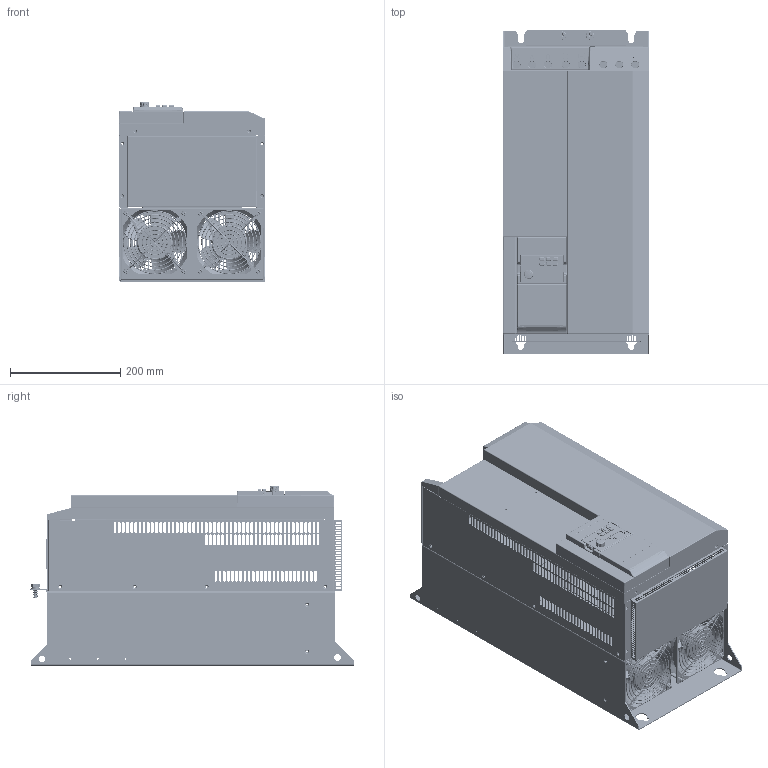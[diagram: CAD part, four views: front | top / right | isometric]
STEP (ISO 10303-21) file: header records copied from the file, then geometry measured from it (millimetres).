
FILE_DESCRIPTION((''),'2;1');
FILE_NAME('VFC5610-55K0-3P4-MNA-XX-NNNNN-N','2023-03-27T11:00:52',('ZUX1XI'),(''),'CREO PARAMETRIC BY PTC INC, 2021072','CREO PARAMETRIC BY PTC INC, 2021072','');
FILE_SCHEMA(('AUTOMOTIVE_DESIGN { 1 0 10303 214 1 1 1 1 }'));
Products named in the file (148): MANIFOLD_SOLID_BREP_4777; X610_45_FENGDAO__14_ASM; DC_CHOKE_HOLDER__2_ASM; X610_45_FENGDAO__ASM_11_ASM; ASM0087_ASM_1_ASM; ASM0088_ASM_1_ASM; ASM0089_ASM_1_ASM; ASM0086_ASM_1_ASM; DCL-0180-EIDC-1804B_ASM_1_ASM; DCL-0128_0174_-EIDC-7307__ASM_1; MANIFOLD_SOLID_BREP_37448; X610_45_ZHONGCENG__18_ASM; MANIFOLD_SOLID_BREP_57325; MANIFOLD_SOLID_BREP_57528; MANIFOLD_SOLID_BREP_57731; MANIFOLD_SOLID_BREP_57934; MANIFOLD_SOLID_BREP_58137; MANIFOLD_SOLID_BREP_58340; MANIFOLD_SOLID_BREP_58543; MANIFOLD_SOLID_BREP_58746; MANIFOLD_SOLID_BREP_58949; MANIFOLD_SOLID_BREP_59152; MANIFOLD_SOLID_BREP_59355; MANIFOLD_SOLID_BREP_59558; MANIFOLD_SOLID_BREP_59761; MANIFOLD_SOLID_BREP_59964; MANIFOLD_SOLID_BREP_60167; MANIFOLD_SOLID_BREP_60370; MANIFOLD_SOLID_BREP_60573; MANIFOLD_SOLID_BREP_60776; X610_37_FENGJIZHIJIA__1_ASM; MANIFOLD_SOLID_BREP_122133; MANIFOLD_SOLID_BREP_122296; MANIFOLD_SOLID_BREP_122459; MANIFOLD_SOLID_BREP_122622; MANIFOLD_SOLID_BREP_122785; X610_37_GND_2_ASM; AD12038-F51_1; MANIFOLD_SOLID_BREP_142995; MANIFOLD_SOLID_BREP_143802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
Assembly tree (210 placements, depth 7):
  VFC5610-55K0-3P4-MNA-XX-NNNNN-N
    00_X610_45_ASM_ASM
      00_X610_45_ASM_121_ASM
        X610_45_FENGDAO__ASM_11_ASM
          X610_45_FENGDAO__14_ASM
            MANIFOLD_SOLID_BREP_4777
          DC_CHOKE_HOLDER__2_ASM
        DCL-0128_0174_-EIDC-7307__ASM_1  x2
          DCL-0180-EIDC-1804B_ASM_1_ASM
            ASM0086_ASM_1_ASM
              ASM0087_ASM_1_ASM
              ASM0088_ASM_1_ASM
              ASM0089_ASM_1_ASM
        X610_45_ZHONGCENG__18_ASM
          MANIFOLD_SOLID_BREP_37448
        X610_37_FENGJIZHIJIA__1_ASM
          MANIFOLD_SOLID_BREP_57325
          MANIFOLD_SOLID_BREP_57528
          MANIFOLD_SOLID_BREP_57731
          MANIFOLD_SOLID_BREP_57934
          MANIFOLD_SOLID_BREP_58137
          MANIFOLD_SOLID_BREP_58340
          MANIFOLD_SOLID_BREP_58543
          MANIFOLD_SOLID_BREP_58746
          MANIFOLD_SOLID_BREP_58949
          MANIFOLD_SOLID_BREP_59152
          MANIFOLD_SOLID_BREP_59355
          MANIFOLD_SOLID_BREP_59558
          MANIFOLD_SOLID_BREP_59761
          MANIFOLD_SOLID_BREP_59964
          MANIFOLD_SOLID_BREP_60167
          MANIFOLD_SOLID_BREP_60370
          MANIFOLD_SOLID_BREP_60573
          MANIFOLD_SOLID_BREP_60776
        X610_37_GND_2_ASM
          MANIFOLD_SOLID_BREP_122133
          MANIFOLD_SOLID_BREP_122296
          MANIFOLD_SOLID_BREP_122459
          MANIFOLD_SOLID_BREP_122622
          MANIFOLD_SOLID_BREP_122785
        AD12038-F51_ASM_1_ASM  x2
          AD12038-F51_1
          FJZJ-105_1_ASM
            MANIFOLD_SOLID_BREP_142995
            MANIFOLD_SOLID_BREP_143802
            MANIFOLD_SOLID_BREP_143909
            MANIFOLD_SOLID_BREP_144016
            MANIFOLD_SOLID_BREP_144123
            MANIFOLD_SOLID_BREP_144230
            MANIFOLD_SOLID_BREP_144337
            MANIFOLD_SOLID_BREP_144444
            MANIFOLD_SOLID_BREP_144551
            MANIFOLD_SOLID_BREP_144658
          M4X50_1
          M4_1
        PR_CAPACLTY-SUPPORT_5_ASM  x2
        PRT0158_3_ASM
        02_XFC5610_CAPACITY_55_ASM_2_AS
        YLF10-45_ASM_1_ASM
          ASM0138_4K_ASM_1_ASM
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Bounding box: 265.5 x 586.5 x 325.24 mm (x, y, z)
Volume: 1936498.2 mm3; surface area: 2148832 mm2
Topology: 81 solids, 87 shells, 11431 faces, 31655 edges, 20515 vertices
Faces by surface type: plane 6243, cylinder 3115, cone 630, torus 594, bspline 570, sphere 148, extrusion 131
Entity records: 462219 total; most frequent: CARTESIAN_POINT 100878, ORIENTED_EDGE 57026, DIRECTION 55523, PRESENTATION_STYLE_ASSIGNMENT 28572, STYLED_ITEM 28572, CURVE_STYLE 28513, EDGE_CURVE 28513, VERTEX_POINT 18548
